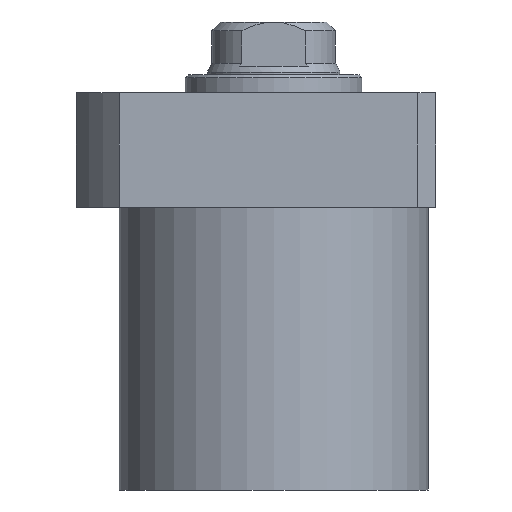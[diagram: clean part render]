
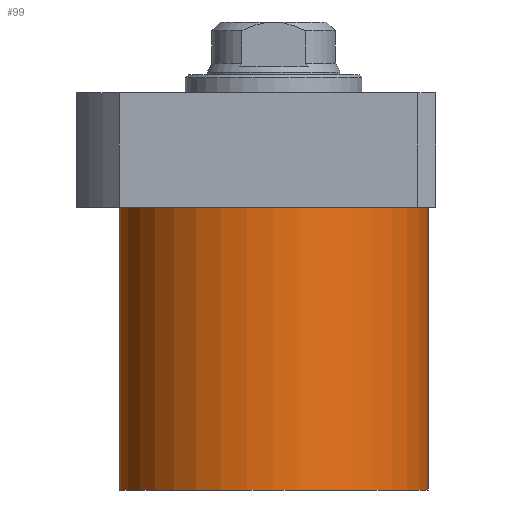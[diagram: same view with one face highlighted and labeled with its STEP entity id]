
A CAD part, front view. The second image highlights one B-rep face of the part: STEP entity #99.
In plain terms, the highlighted cylindrical face has radius 52.5 mm (diameter 105 mm), a partial arc.
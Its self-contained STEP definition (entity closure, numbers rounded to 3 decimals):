
#36 = AXIS2_PLACEMENT_3D ( 'NONE', #131, #1132, #1739 ) ;
#60 = LINE ( 'NONE', #230, #885 ) ;
#99 = ADVANCED_FACE ( 'NONE', ( #381 ), #600, .T. ) ;
#131 = CARTESIAN_POINT ( 'NONE',  ( 0., 0., -19.5 ) ) ;
#230 = CARTESIAN_POINT ( 'NONE',  ( 52.5, 0., -115.5 ) ) ;
#263 = VERTEX_POINT ( 'NONE', #1439 ) ;
#269 = CIRCLE ( 'NONE', #36, 52.5 ) ;
#381 = FACE_OUTER_BOUND ( 'NONE', #925, .T. ) ;
#403 = CARTESIAN_POINT ( 'NONE',  ( -52.5, 0., -19.5 ) ) ;
#458 = VERTEX_POINT ( 'NONE', #664 ) ;
#582 = LINE ( 'NONE', #592, #1291 ) ;
#592 = CARTESIAN_POINT ( 'NONE',  ( -52.5, 0., -115.5 ) ) ;
#600 = CYLINDRICAL_SURFACE ( 'NONE', #1276, 52.5 ) ;
#606 = EDGE_CURVE ( 'NONE', #1034, #1345, #269, .T. ) ;
#664 = CARTESIAN_POINT ( 'NONE',  ( -52.5, 0., -115.5 ) ) ;
#722 = CARTESIAN_POINT ( 'NONE',  ( 0., 0., -115.5 ) ) ;
#885 = VECTOR ( 'NONE', #1163, 1000. ) ;
#925 = EDGE_LOOP ( 'NONE', ( #1482, #944, #1631, #1412 ) ) ;
#944 = ORIENTED_EDGE ( 'NONE', *, *, #1534, .F. ) ;
#973 = CARTESIAN_POINT ( 'NONE',  ( 0., 0., -115.5 ) ) ;
#1034 = VERTEX_POINT ( 'NONE', #1753 ) ;
#1053 = EDGE_CURVE ( 'NONE', #458, #1345, #582, .T. ) ;
#1132 = DIRECTION ( 'NONE',  ( 0., 0., -1. ) ) ;
#1149 = AXIS2_PLACEMENT_3D ( 'NONE', #722, #1774, #1448 ) ;
#1163 = DIRECTION ( 'NONE',  ( 0., 0., 1. ) ) ;
#1276 = AXIS2_PLACEMENT_3D ( 'NONE', #973, #1420, #1414 ) ;
#1291 = VECTOR ( 'NONE', #1789, 1000. ) ;
#1345 = VERTEX_POINT ( 'NONE', #403 ) ;
#1412 = ORIENTED_EDGE ( 'NONE', *, *, #606, .T. ) ;
#1414 = DIRECTION ( 'NONE',  ( 1., 0., 0. ) ) ;
#1420 = DIRECTION ( 'NONE',  ( 0., 0., 1. ) ) ;
#1439 = CARTESIAN_POINT ( 'NONE',  ( 52.5, 0., -115.5 ) ) ;
#1448 = DIRECTION ( 'NONE',  ( -1., 0., 0. ) ) ;
#1479 = EDGE_CURVE ( 'NONE', #263, #1034, #60, .T. ) ;
#1482 = ORIENTED_EDGE ( 'NONE', *, *, #1053, .F. ) ;
#1534 = EDGE_CURVE ( 'NONE', #263, #458, #1825, .T. ) ;
#1631 = ORIENTED_EDGE ( 'NONE', *, *, #1479, .T. ) ;
#1739 = DIRECTION ( 'NONE',  ( 1., 0., 0. ) ) ;
#1753 = CARTESIAN_POINT ( 'NONE',  ( 52.5, 0., -19.5 ) ) ;
#1774 = DIRECTION ( 'NONE',  ( 0., 0., -1. ) ) ;
#1789 = DIRECTION ( 'NONE',  ( 0., 0., 1. ) ) ;
#1825 = CIRCLE ( 'NONE', #1149, 52.5 ) ;
